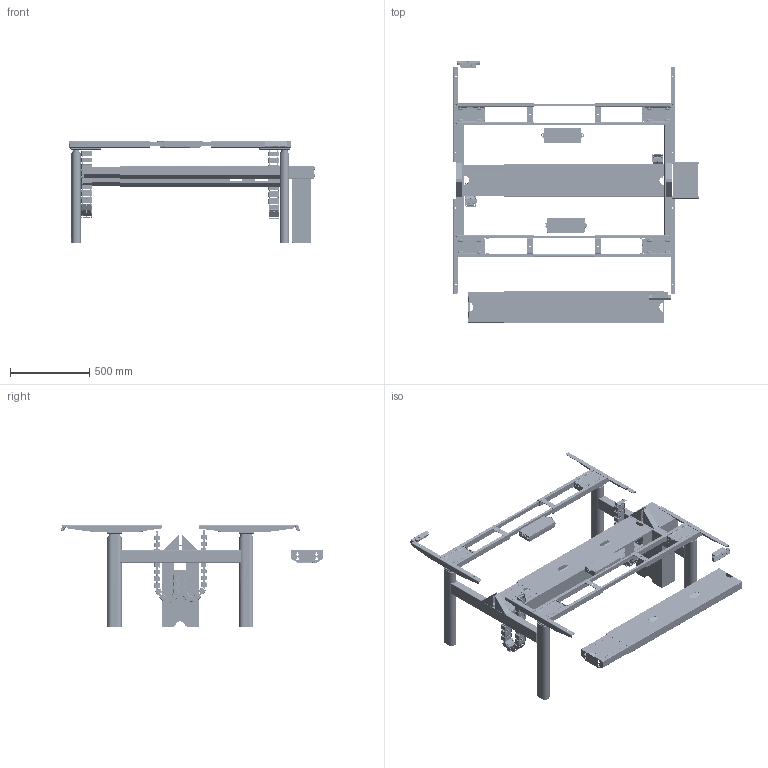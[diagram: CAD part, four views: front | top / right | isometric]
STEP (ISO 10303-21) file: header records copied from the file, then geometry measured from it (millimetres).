
FILE_DESCRIPTION(('CATIA V5 STEP Exchange'),'2;1');
FILE_NAME('F:\2023设计申请单\其他事项\椭圆管组合式桌架\3D\(AK2YJYT-ZT3)X2-V3.stp','2023-07-06T00:44:07+00:00',('none'),('none'),'CATIA Version 5 Release 21 GA (IN-10)','CATIA V5 STEP AP203','none');
FILE_SCHEMA(('CONFIG_CONTROL_DESIGN'));
Products named in the file (20): (AK2YJYT-Q-ZY2)X2-T175; AK2YJYT-Q-ZY2; Product1; 【受控】1.01.620.X AK-ZHHL02YJ-TMH500A_YJYT薄款组合横梁1; Copy (1) of Copy (1) of ZT3; 【临时】1.96.008.5998X_AK-ZT3-SG01-548_上管(隐藏式双电机正装椭圆管三节); 1.13.089.X AK-ZF2-SG01-641_65AU-LS; 【临时】1.96.008.X AK-ZT3-XG01-526_下管(隐藏式双电机正装椭圆管三节); Product3; Copy (1) of Product1; Copy (1) of ZT3; ASM-2019-6-3; 双电机控制盒; Product2; 【临时】1.96.008.6585X AK-ZHLJJ05-760-5891_组合式连接梁(椭圆管); Product4; Copy (1) of Product2; Product5; AK-TZBZJ03D-167; SXG05
Assembly tree (131 placements, depth 7):
  (AK2YJYT-Q-ZY2)X2-T175
    AK2YJYT-Q-ZY2  x2
      Product1
        【受控】1.01.620.X AK-ZHHL02YJ-TMH500A_YJYT薄款组合横梁1
          #82
          #1483
          #2340
          #3497
          #5063
        #6477  x2
        #8976
        #10387
        Copy (1) of Copy (1) of ZT3
          【临时】1.96.008.5998X_AK-ZT3-SG01-548_上管(隐藏式双电机正装椭圆管三节)
            1.13.089.X AK-ZF2-SG01-641_65AU-LS
              #17392
              #20393
            #34061
          【临时】1.96.008.X AK-ZT3-XG01-526_下管(隐藏式双电机正装椭圆管三节)
            #37750
            #39015
            #40632
          #42040
          #46358
          #59563
          #72557
      Product3
        #117892  x2
      Copy (1) of Product1
        【受控】1.01.620.X AK-ZHHL02YJ-TMH500A_YJYT薄款组合横梁1
          #82
          #1483
          #2340
          #3497
          #5063
        #6477  x2
        #8976
        #10387
        Copy (1) of ZT3
          【临时】1.96.008.5998X_AK-ZT3-SG01-548_上管(隐藏式双电机正装椭圆管三节)
            1.13.089.X AK-ZF2-SG01-641_65AU-LS
              #17392
              #20393
            #34061
          【临时】1.96.008.X AK-ZT3-XG01-526_下管(隐藏式双电机正装椭圆管三节)
            #37750
            #39015
            #40632
          #42040
          #46358
          #59563
          #72557
      ASM-2019-6-3
        #119056
        #131571
      双电机控制盒
        #153353
        #168881
        #188661
    Product2
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Bounding box: 1548.5 x 1655.91 x 640 mm (x, y, z)
Volume: 10264424.4 mm3; surface area: 12116566.1 mm2
Topology: 205 solids, 205 shells, 23422 faces, 64354 edges, 41310 vertices
Faces by surface type: plane 11238, cylinder 8280, bspline 1754, torus 1258, cone 716, sphere 164, extrusion 8, revolution 4
Entity records: 247971 total; most frequent: CARTESIAN_POINT 84537, ORIENTED_EDGE 37538, DIRECTION 26758, EDGE_CURVE 18769, VERTEX_POINT 12013, VECTOR 10843, LINE 10841, AXIS2_PLACEMENT_3D 9788
